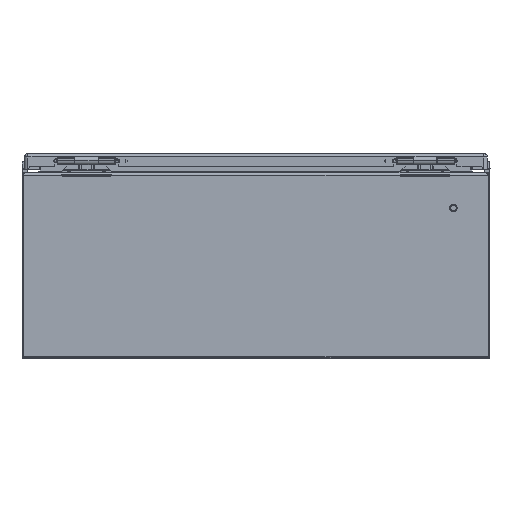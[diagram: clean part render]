
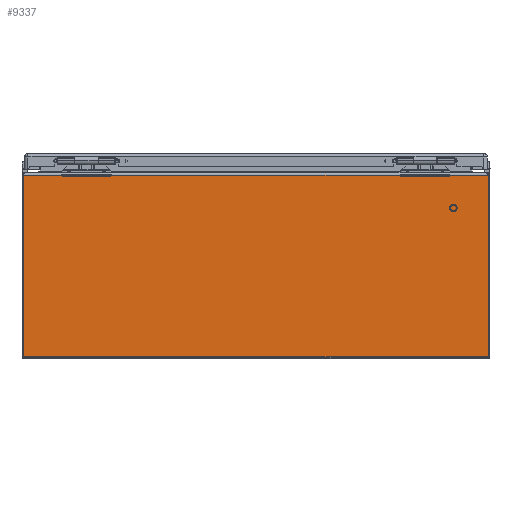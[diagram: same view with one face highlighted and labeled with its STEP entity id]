
A CAD part, left-side view. The second image highlights one B-rep face of the part: STEP entity #9337.
In plain terms, the highlighted planar face has unit normal (-1, 0, 0).
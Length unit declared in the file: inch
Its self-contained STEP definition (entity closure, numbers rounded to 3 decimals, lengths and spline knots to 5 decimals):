
#341 = DIRECTION ( 'NONE',  ( 0., -1., 0. ) ) ;
#349 = CARTESIAN_POINT ( 'NONE',  ( -12., 130., 0.097 ) ) ;
#350 = DIRECTION ( 'NONE',  ( 0., -1., 0. ) ) ;
#351 = CARTESIAN_POINT ( 'NONE',  ( -12., 130., 7.859 ) ) ;
#427 = DIRECTION ( 'NONE',  ( 0., 0., 1. ) ) ;
#428 = CARTESIAN_POINT ( 'NONE',  ( -12., -9.94693, 7.859 ) ) ;
#1672 = DIRECTION ( 'NONE',  ( 0., 0., -1. ) ) ;
#1674 = CARTESIAN_POINT ( 'NONE',  ( -12., 9.94693, 7.859 ) ) ;
#4505 = VECTOR ( 'NONE', #1672, 39.37008 ) ;
#4509 = LINE ( 'NONE', #1674, #4505 ) ;
#9337 = ADVANCED_FACE ( 'NONE', ( #42255 ), #44092, .T. ) ;
#9966 = ORIENTED_EDGE ( 'NONE', *, *, #41221, .T. ) ;
#9967 = ORIENTED_EDGE ( 'NONE', *, *, #41236, .F. ) ;
#9968 = ORIENTED_EDGE ( 'NONE', *, *, #41178, .T. ) ;
#9969 = ORIENTED_EDGE ( 'NONE', *, *, #41239, .T. ) ;
#11598 = LINE ( 'NONE', #428, #11601 ) ;
#11601 = VECTOR ( 'NONE', #427, 39.37008 ) ;
#11619 = LINE ( 'NONE', #351, #11625 ) ;
#11624 = LINE ( 'NONE', #349, #11633 ) ;
#11625 = VECTOR ( 'NONE', #350, 39.37008 ) ;
#11633 = VECTOR ( 'NONE', #341, 39.37008 ) ;
#25800 = EDGE_LOOP ( 'NONE', ( #9966, #9967, #9968, #9969 ) ) ;
#26598 = VERTEX_POINT ( 'NONE', #37062 ) ;
#26613 = VERTEX_POINT ( 'NONE', #37046 ) ;
#26620 = VERTEX_POINT ( 'NONE', #37035 ) ;
#26633 = VERTEX_POINT ( 'NONE', #37022 ) ;
#37022 = CARTESIAN_POINT ( 'NONE',  ( -12., 9.94693, 7.859 ) ) ;
#37035 = CARTESIAN_POINT ( 'NONE',  ( -12., -9.94693, 0.097 ) ) ;
#37046 = CARTESIAN_POINT ( 'NONE',  ( -12., -9.94693, 7.859 ) ) ;
#37062 = CARTESIAN_POINT ( 'NONE',  ( -12., 9.94693, 0.097 ) ) ;
#41178 = EDGE_CURVE ( 'NONE', #26633, #26598, #4509, .T. ) ;
#41221 = EDGE_CURVE ( 'NONE', #26620, #26613, #11598, .T. ) ;
#41236 = EDGE_CURVE ( 'NONE', #26633, #26613, #11619, .T. ) ;
#41239 = EDGE_CURVE ( 'NONE', #26598, #26620, #11624, .T. ) ;
#42255 = FACE_OUTER_BOUND ( 'NONE', #25800, .T. ) ;
#43519 = AXIS2_PLACEMENT_3D ( 'NONE', #44098, #44084, #44082 ) ;
#44082 = DIRECTION ( 'NONE',  ( 0., 0., -1. ) ) ;
#44084 = DIRECTION ( 'NONE',  ( -1., 0., 0. ) ) ;
#44092 = PLANE ( 'NONE',  #43519 ) ;
#44098 = CARTESIAN_POINT ( 'NONE',  ( -12., 130., 7.859 ) ) ;
